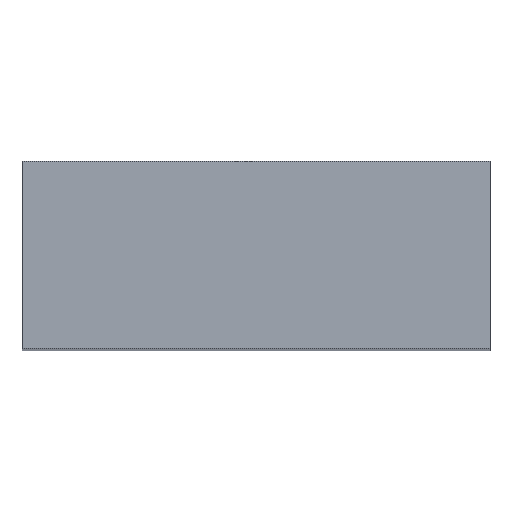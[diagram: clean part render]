
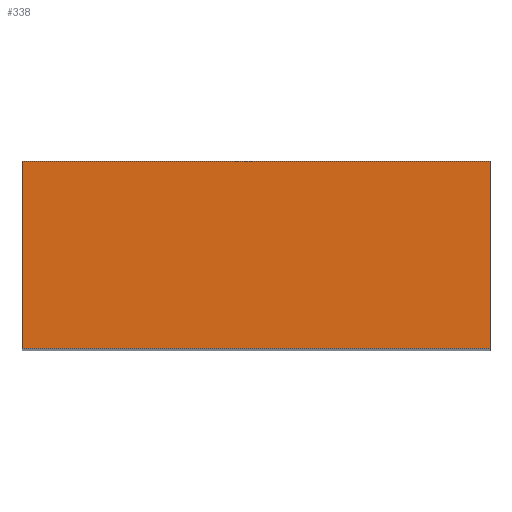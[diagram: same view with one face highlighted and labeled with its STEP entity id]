
A CAD part, top view. The second image highlights one B-rep face of the part: STEP entity #338.
In plain terms, the highlighted planar face has unit normal (0, 0, 1).
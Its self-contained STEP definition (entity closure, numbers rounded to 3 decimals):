
#24 = VERTEX_POINT('',#25);
#25 = CARTESIAN_POINT('',(22.5,-9.,150.));
#32 = PLANE('',#33);
#33 = AXIS2_PLACEMENT_3D('',#34,#35,#36);
#34 = CARTESIAN_POINT('',(22.5,-9.,0.));
#35 = DIRECTION('',(-0.,1.,-0.));
#36 = DIRECTION('',(1.,0.,0.));
#44 = PLANE('',#45);
#45 = AXIS2_PLACEMENT_3D('',#46,#47,#48);
#46 = CARTESIAN_POINT('',(22.5,9.,0.));
#47 = DIRECTION('',(-1.,-0.,-0.));
#48 = DIRECTION('',(0.,1.,0.));
#56 = EDGE_CURVE('',#24,#57,#59,.T.);
#57 = VERTEX_POINT('',#58);
#58 = CARTESIAN_POINT('',(-22.5,-9.,150.));
#59 = SURFACE_CURVE('',#60,(#64,#71),.PCURVE_S1.);
#60 = LINE('',#61,#62);
#61 = CARTESIAN_POINT('',(22.5,-9.,150.));
#62 = VECTOR('',#63,1.);
#63 = DIRECTION('',(-1.,-0.,-0.));
#64 = PCURVE('',#32,#65);
#65 = DEFINITIONAL_REPRESENTATION('',(#66),#70);
#66 = LINE('',#67,#68);
#67 = CARTESIAN_POINT('',(-0.,-150.));
#68 = VECTOR('',#69,1.);
#69 = DIRECTION('',(-1.,0.));
#70 = ( GEOMETRIC_REPRESENTATION_CONTEXT(2) 
PARAMETRIC_REPRESENTATION_CONTEXT() REPRESENTATION_CONTEXT('2D SPACE',''
  ) );
#71 = PCURVE('',#72,#77);
#72 = PLANE('',#73);
#73 = AXIS2_PLACEMENT_3D('',#74,#75,#76);
#74 = CARTESIAN_POINT('',(0.,0.,150.));
#75 = DIRECTION('',(-0.,-0.,1.));
#76 = DIRECTION('',(1.,0.,0.));
#77 = DEFINITIONAL_REPRESENTATION('',(#78),#82);
#78 = LINE('',#79,#80);
#79 = CARTESIAN_POINT('',(22.5,-9.));
#80 = VECTOR('',#81,1.);
#81 = DIRECTION('',(-1.,0.));
#82 = ( GEOMETRIC_REPRESENTATION_CONTEXT(2) 
PARAMETRIC_REPRESENTATION_CONTEXT() REPRESENTATION_CONTEXT('2D SPACE',''
  ) );
#100 = PLANE('',#101);
#101 = AXIS2_PLACEMENT_3D('',#102,#103,#104);
#102 = CARTESIAN_POINT('',(-22.5,-9.,0.));
#103 = DIRECTION('',(1.,-0.,-0.));
#104 = DIRECTION('',(0.,-1.,0.));
#142 = EDGE_CURVE('',#57,#143,#145,.T.);
#143 = VERTEX_POINT('',#144);
#144 = CARTESIAN_POINT('',(-22.5,9.,150.));
#145 = SURFACE_CURVE('',#146,(#150,#157),.PCURVE_S1.);
#146 = LINE('',#147,#148);
#147 = CARTESIAN_POINT('',(-22.5,-9.,150.));
#148 = VECTOR('',#149,1.);
#149 = DIRECTION('',(-0.,1.,-0.));
#150 = PCURVE('',#100,#151);
#151 = DEFINITIONAL_REPRESENTATION('',(#152),#156);
#152 = LINE('',#153,#154);
#153 = CARTESIAN_POINT('',(-0.,-150.));
#154 = VECTOR('',#155,1.);
#155 = DIRECTION('',(-1.,0.));
#156 = ( GEOMETRIC_REPRESENTATION_CONTEXT(2) 
PARAMETRIC_REPRESENTATION_CONTEXT() REPRESENTATION_CONTEXT('2D SPACE',''
  ) );
#157 = PCURVE('',#72,#158);
#158 = DEFINITIONAL_REPRESENTATION('',(#159),#163);
#159 = LINE('',#160,#161);
#160 = CARTESIAN_POINT('',(-22.5,-9.));
#161 = VECTOR('',#162,1.);
#162 = DIRECTION('',(-0.,1.));
#163 = ( GEOMETRIC_REPRESENTATION_CONTEXT(2) 
PARAMETRIC_REPRESENTATION_CONTEXT() REPRESENTATION_CONTEXT('2D SPACE',''
  ) );
#181 = PLANE('',#182);
#182 = AXIS2_PLACEMENT_3D('',#183,#184,#185);
#183 = CARTESIAN_POINT('',(-22.5,9.,0.));
#184 = DIRECTION('',(-0.,-1.,-0.));
#185 = DIRECTION('',(-1.,0.,0.));
#218 = EDGE_CURVE('',#143,#219,#221,.T.);
#219 = VERTEX_POINT('',#220);
#220 = CARTESIAN_POINT('',(22.5,9.,150.));
#221 = SURFACE_CURVE('',#222,(#226,#233),.PCURVE_S1.);
#222 = LINE('',#223,#224);
#223 = CARTESIAN_POINT('',(-22.5,9.,150.));
#224 = VECTOR('',#225,1.);
#225 = DIRECTION('',(1.,-0.,-0.));
#226 = PCURVE('',#181,#227);
#227 = DEFINITIONAL_REPRESENTATION('',(#228),#232);
#228 = LINE('',#229,#230);
#229 = CARTESIAN_POINT('',(-0.,-150.));
#230 = VECTOR('',#231,1.);
#231 = DIRECTION('',(-1.,0.));
#232 = ( GEOMETRIC_REPRESENTATION_CONTEXT(2) 
PARAMETRIC_REPRESENTATION_CONTEXT() REPRESENTATION_CONTEXT('2D SPACE',''
  ) );
#233 = PCURVE('',#72,#234);
#234 = DEFINITIONAL_REPRESENTATION('',(#235),#239);
#235 = LINE('',#236,#237);
#236 = CARTESIAN_POINT('',(-22.5,9.));
#237 = VECTOR('',#238,1.);
#238 = DIRECTION('',(1.,-0.));
#239 = ( GEOMETRIC_REPRESENTATION_CONTEXT(2) 
PARAMETRIC_REPRESENTATION_CONTEXT() REPRESENTATION_CONTEXT('2D SPACE',''
  ) );
#289 = EDGE_CURVE('',#219,#24,#290,.T.);
#290 = SURFACE_CURVE('',#291,(#295,#302),.PCURVE_S1.);
#291 = LINE('',#292,#293);
#292 = CARTESIAN_POINT('',(22.5,9.,150.));
#293 = VECTOR('',#294,1.);
#294 = DIRECTION('',(-0.,-1.,-0.));
#295 = PCURVE('',#44,#296);
#296 = DEFINITIONAL_REPRESENTATION('',(#297),#301);
#297 = LINE('',#298,#299);
#298 = CARTESIAN_POINT('',(-0.,-150.));
#299 = VECTOR('',#300,1.);
#300 = DIRECTION('',(-1.,0.));
#301 = ( GEOMETRIC_REPRESENTATION_CONTEXT(2) 
PARAMETRIC_REPRESENTATION_CONTEXT() REPRESENTATION_CONTEXT('2D SPACE',''
  ) );
#302 = PCURVE('',#72,#303);
#303 = DEFINITIONAL_REPRESENTATION('',(#304),#308);
#304 = LINE('',#305,#306);
#305 = CARTESIAN_POINT('',(22.5,9.));
#306 = VECTOR('',#307,1.);
#307 = DIRECTION('',(-0.,-1.));
#308 = ( GEOMETRIC_REPRESENTATION_CONTEXT(2) 
PARAMETRIC_REPRESENTATION_CONTEXT() REPRESENTATION_CONTEXT('2D SPACE',''
  ) );
#338 = ADVANCED_FACE('',(#339),#72,.T.);
#339 = FACE_BOUND('',#340,.F.);
#340 = EDGE_LOOP('',(#341,#342,#343,#344));
#341 = ORIENTED_EDGE('',*,*,#56,.T.);
#342 = ORIENTED_EDGE('',*,*,#142,.T.);
#343 = ORIENTED_EDGE('',*,*,#218,.T.);
#344 = ORIENTED_EDGE('',*,*,#289,.T.);
